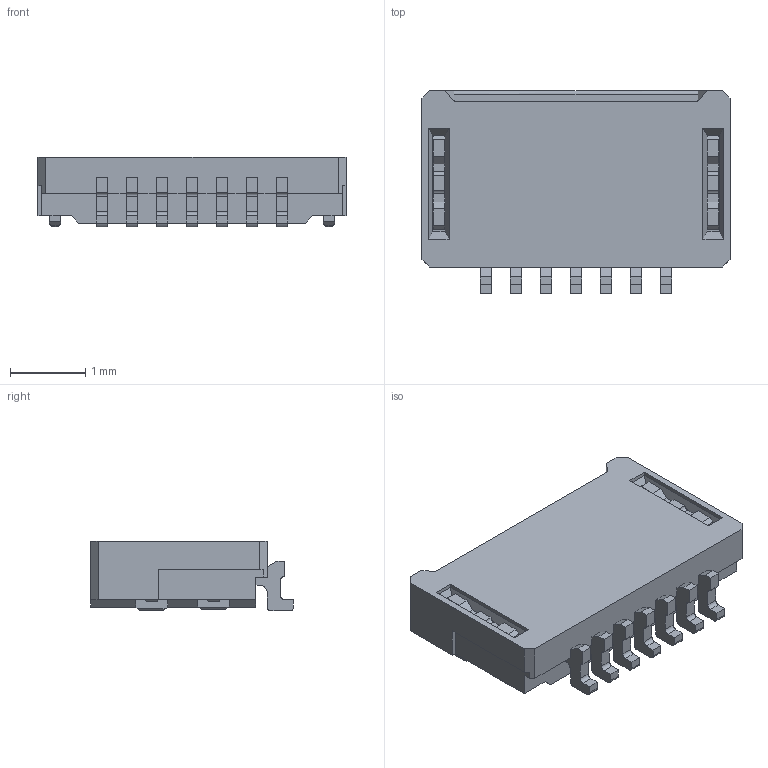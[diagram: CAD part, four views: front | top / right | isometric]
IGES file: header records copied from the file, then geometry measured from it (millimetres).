
Start section: SolidWorks IGES file using analytic representation for surfaces
Global section: file name: Q:\Kamikawa_Hisako\170725\04_6824_607_000_846+.IGS; native system: SolidWorks 2014; preprocessor: SolidWorks 2014; author: 151066016; date: 170725.162418; units: millimetre
Bounding box: 4.1 x 2.7 x 0.93 mm (x, y, z)
Surface area: 48.6 mm2 (no closed solid volume)
Topology: 0 solids, 0 shells, 249 faces, 1562 edges, 1562 vertices
Faces by surface type: bspline 201, revolution 48
